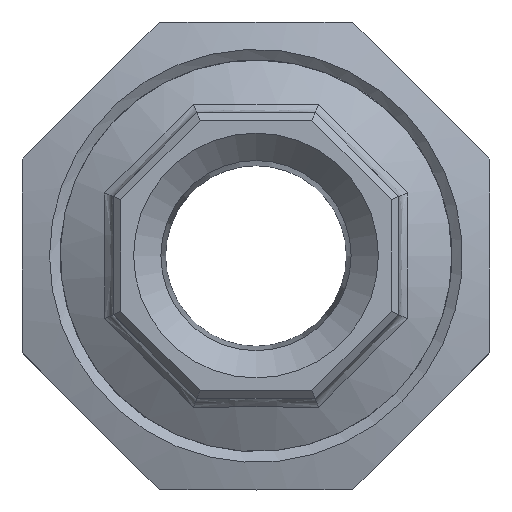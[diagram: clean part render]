
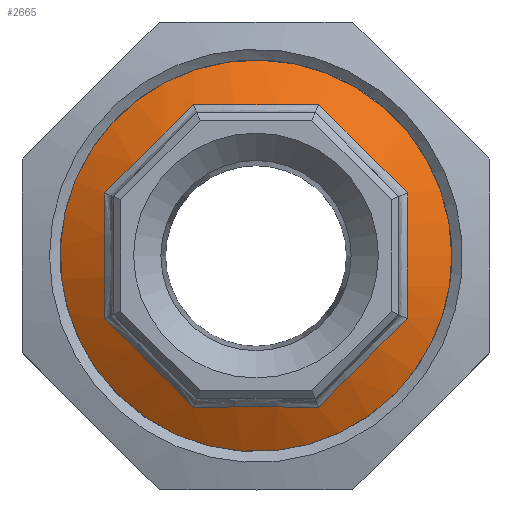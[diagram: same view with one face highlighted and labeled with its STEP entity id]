
A CAD part, top view. The second image highlights one B-rep face of the part: STEP entity #2665.
In plain terms, the highlighted conical face has half-angle 60 degrees and reference radius 14.755 mm.
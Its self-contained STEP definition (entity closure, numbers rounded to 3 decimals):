
#2180=CARTESIAN_POINT('',(11.858,-1.044,17.196));
#2181=VERTEX_POINT('',#2180);
#2182=CARTESIAN_POINT('',(-5.897,-1.044,17.196));
#2183=DIRECTION('',(0.0,0.0,-1.0));
#2184=DIRECTION('',(-1.0,0.0,0.0));
#2185=AXIS2_PLACEMENT_3D('',#2182,#2183,#2184);
#2186=CIRCLE('',#2185,17.755);
#2187=EDGE_CURVE('',#2181,#2181,#2186,.T.);
#2559=CARTESIAN_POINT('',(-5.897,-1.044,18.928));
#2560=DIRECTION('',(0.,0.,-1.0));
#2561=DIRECTION('',(1.0,0.0,0.0));
#2562=AXIS2_PLACEMENT_3D('',#2559,#2560,#2561);
#2563=CONICAL_SURFACE('',#2562,14.755,60.);
#2564=ORIENTED_EDGE('',*,*,#2187,.F.);
#2565=EDGE_LOOP('',(#2564));
#2566=FACE_OUTER_BOUND('',#2565,.T.);
#2567=CARTESIAN_POINT('',(-11.595,12.713,18.849));
#2568=VERTEX_POINT('',#2567);
#2569=CARTESIAN_POINT('',(-19.654,4.655,18.849));
#2570=VERTEX_POINT('',#2569);
#2571=CARTESIAN_POINT('',(-11.595,12.713,18.849));
#2572=CARTESIAN_POINT('',(-12.344,11.938,19.098));
#2573=CARTESIAN_POINT('',(-13.853,10.383,19.48));
#2574=CARTESIAN_POINT('',(-15.967,8.254,19.592));
#2575=CARTESIAN_POINT('',(-17.908,6.345,19.343));
#2576=CARTESIAN_POINT('',(-19.073,5.216,19.036));
#2577=CARTESIAN_POINT('',(-19.654,4.655,18.849));
#2578=B_SPLINE_CURVE_WITH_KNOTS('',3,(#2571,#2572,#2573,#2574,#2575,#2576,#2577),.UNSPECIFIED.,.F.,.U.,(4,1,1,1,4),(1.113,1.457,1.802,2.061,2.319),.UNSPECIFIED.);
#2579=EDGE_CURVE('',#2568,#2570,#2578,.T.);
#2580=ORIENTED_EDGE('',*,*,#2579,.F.);
#2581=CARTESIAN_POINT('',(-0.199,12.713,18.849));
#2582=VERTEX_POINT('',#2581);
#2583=CARTESIAN_POINT('',(-0.199,12.713,18.849));
#2584=CARTESIAN_POINT('',(-1.276,12.694,19.098));
#2585=CARTESIAN_POINT('',(-3.443,12.662,19.48));
#2586=CARTESIAN_POINT('',(-6.17,12.652,19.582));
#2587=CARTESIAN_POINT('',(-8.893,12.67,19.383));
#2588=CARTESIAN_POINT('',(-10.518,12.694,19.098));
#2589=CARTESIAN_POINT('',(-11.595,12.713,18.849));
#2590=B_SPLINE_CURVE_WITH_KNOTS('',3,(#2583,#2584,#2585,#2586,#2587,#2588,#2589),.UNSPECIFIED.,.F.,.U.,(4,1,1,1,4),(1.315,1.66,2.005,2.177,2.522),.UNSPECIFIED.);
#2591=EDGE_CURVE('',#2582,#2568,#2590,.T.);
#2592=ORIENTED_EDGE('',*,*,#2591,.F.);
#2593=CARTESIAN_POINT('',(7.86,4.655,18.849));
#2594=VERTEX_POINT('',#2593);
#2595=CARTESIAN_POINT('',(7.86,4.655,18.849));
#2596=CARTESIAN_POINT('',(7.279,5.216,19.036));
#2597=CARTESIAN_POINT('',(6.114,6.345,19.343));
#2598=CARTESIAN_POINT('',(4.173,8.254,19.592));
#2599=CARTESIAN_POINT('',(2.059,10.383,19.48));
#2600=CARTESIAN_POINT('',(0.55,11.938,19.098));
#2601=CARTESIAN_POINT('',(-0.199,12.713,18.849));
#2602=B_SPLINE_CURVE_WITH_KNOTS('',3,(#2595,#2596,#2597,#2598,#2599,#2600,#2601),.UNSPECIFIED.,.F.,.U.,(4,1,1,1,4),(1.113,1.371,1.63,1.975,2.319),.UNSPECIFIED.);
#2603=EDGE_CURVE('',#2594,#2582,#2602,.T.);
#2604=ORIENTED_EDGE('',*,*,#2603,.F.);
#2605=CARTESIAN_POINT('',(7.86,-6.742,18.849));
#2606=VERTEX_POINT('',#2605);
#2607=CARTESIAN_POINT('',(7.86,-6.742,18.849));
#2608=CARTESIAN_POINT('',(7.846,-5.934,19.036));
#2609=CARTESIAN_POINT('',(7.82,-4.312,19.343));
#2610=CARTESIAN_POINT('',(7.798,-1.59,19.592));
#2611=CARTESIAN_POINT('',(7.808,1.411,19.48));
#2612=CARTESIAN_POINT('',(7.841,3.577,19.098));
#2613=CARTESIAN_POINT('',(7.86,4.655,18.849));
#2614=B_SPLINE_CURVE_WITH_KNOTS('',3,(#2607,#2608,#2609,#2610,#2611,#2612,#2613),.UNSPECIFIED.,.F.,.U.,(4,1,1,1,4),(1.315,1.574,1.833,2.177,2.522),.UNSPECIFIED.);
#2615=EDGE_CURVE('',#2606,#2594,#2614,.T.);
#2616=ORIENTED_EDGE('',*,*,#2615,.F.);
#2617=CARTESIAN_POINT('',(-0.199,-14.801,18.849));
#2618=VERTEX_POINT('',#2617);
#2619=CARTESIAN_POINT('',(-0.199,-14.801,18.849));
#2620=CARTESIAN_POINT('',(0.55,-14.026,19.098));
#2621=CARTESIAN_POINT('',(2.059,-12.47,19.48));
#2622=CARTESIAN_POINT('',(4.173,-10.342,19.592));
#2623=CARTESIAN_POINT('',(6.113,-8.433,19.343));
#2624=CARTESIAN_POINT('',(7.279,-7.303,19.036));
#2625=CARTESIAN_POINT('',(7.86,-6.742,18.849));
#2626=B_SPLINE_CURVE_WITH_KNOTS('',3,(#2619,#2620,#2621,#2622,#2623,#2624,#2625),.UNSPECIFIED.,.F.,.U.,(4,1,1,1,4),(1.113,1.457,1.802,2.061,2.319),.UNSPECIFIED.);
#2627=EDGE_CURVE('',#2618,#2606,#2626,.T.);
#2628=ORIENTED_EDGE('',*,*,#2627,.F.);
#2629=CARTESIAN_POINT('',(-11.595,-14.801,18.849));
#2630=VERTEX_POINT('',#2629);
#2631=CARTESIAN_POINT('',(-11.595,-14.801,18.849));
#2632=CARTESIAN_POINT('',(-10.518,-14.782,19.098));
#2633=CARTESIAN_POINT('',(-8.893,-14.758,19.383));
#2634=CARTESIAN_POINT('',(-6.17,-14.74,19.582));
#2635=CARTESIAN_POINT('',(-3.443,-14.749,19.48));
#2636=CARTESIAN_POINT('',(-1.276,-14.782,19.098));
#2637=CARTESIAN_POINT('',(-0.199,-14.801,18.849));
#2638=B_SPLINE_CURVE_WITH_KNOTS('',3,(#2631,#2632,#2633,#2634,#2635,#2636,#2637),.UNSPECIFIED.,.F.,.U.,(4,1,1,1,4),(1.315,1.66,1.833,2.177,2.522),.UNSPECIFIED.);
#2639=EDGE_CURVE('',#2630,#2618,#2638,.T.);
#2640=ORIENTED_EDGE('',*,*,#2639,.F.);
#2641=CARTESIAN_POINT('',(-19.654,-6.742,18.849));
#2642=VERTEX_POINT('',#2641);
#2643=CARTESIAN_POINT('',(-19.654,-6.742,18.849));
#2644=CARTESIAN_POINT('',(-18.879,-7.49,19.098));
#2645=CARTESIAN_POINT('',(-17.324,-8.999,19.48));
#2646=CARTESIAN_POINT('',(-15.195,-11.114,19.592));
#2647=CARTESIAN_POINT('',(-13.286,-13.054,19.343));
#2648=CARTESIAN_POINT('',(-12.157,-14.219,19.036));
#2649=CARTESIAN_POINT('',(-11.595,-14.801,18.849));
#2650=B_SPLINE_CURVE_WITH_KNOTS('',3,(#2643,#2644,#2645,#2646,#2647,#2648,#2649),.UNSPECIFIED.,.F.,.U.,(4,1,1,1,4),(1.113,1.457,1.802,2.061,2.319),.UNSPECIFIED.);
#2651=EDGE_CURVE('',#2642,#2630,#2650,.T.);
#2652=ORIENTED_EDGE('',*,*,#2651,.F.);
#2653=CARTESIAN_POINT('',(-19.654,4.655,18.849));
#2654=CARTESIAN_POINT('',(-19.635,3.577,19.098));
#2655=CARTESIAN_POINT('',(-19.611,1.952,19.383));
#2656=CARTESIAN_POINT('',(-19.593,-0.77,19.582));
#2657=CARTESIAN_POINT('',(-19.602,-3.498,19.48));
#2658=CARTESIAN_POINT('',(-19.635,-5.665,19.098));
#2659=CARTESIAN_POINT('',(-19.654,-6.742,18.849));
#2660=B_SPLINE_CURVE_WITH_KNOTS('',3,(#2653,#2654,#2655,#2656,#2657,#2658,#2659),.UNSPECIFIED.,.F.,.U.,(4,1,1,1,4),(1.315,1.66,1.833,2.177,2.522),.UNSPECIFIED.);
#2661=EDGE_CURVE('',#2570,#2642,#2660,.T.);
#2662=ORIENTED_EDGE('',*,*,#2661,.F.);
#2663=EDGE_LOOP('',(#2580,#2592,#2604,#2616,#2628,#2640,#2652,#2662));
#2664=FACE_BOUND('',#2663,.T.);
#2665=ADVANCED_FACE('',(#2566,#2664),#2563,.T.);
